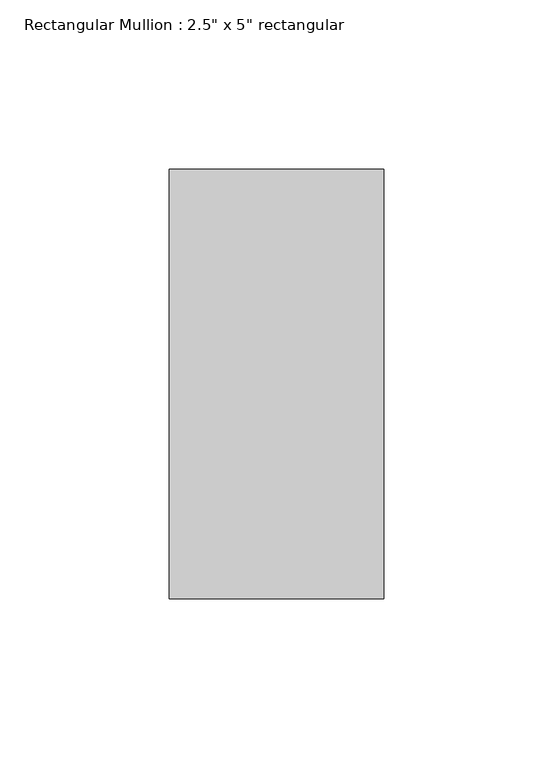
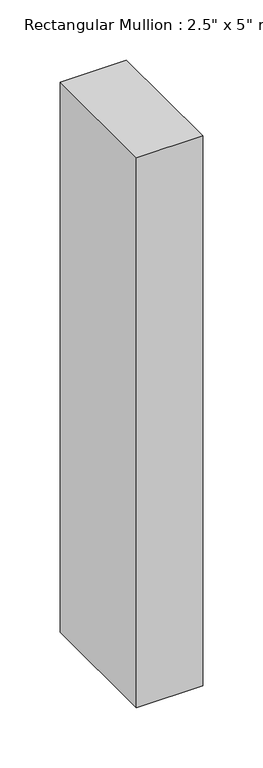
"""IFC4 building model written with IfcOpenShell, lengths in millimetres: member geometry."""

from ifc_helpers import new_model, si_unit, frame, origin, place, context, project, spatial, polyline, outline, extrude, source, transform, mapped, element, save


def member_4dd012e6(model_context):
    return source(origin(), model_context, "Body", "SweptSolid", [
        extrude(outline(polyline([(31.75, 63.5), (31.75, -63.5), (-31.75, -63.5), (-31.75, 63.5), (31.75, 63.5)])), frame((0.0, 0.0, -558.2730236), z_axis=(0.0, 0.0, 1.0), x_axis=(1.0, 0.0, 0.0)), (0.0, 0.0, 1.0), 558.2730236),
    ])


if __name__ == "__main__":
    model = new_model("IFC4")
    model_context = context("Model", 3, world=origin())
    ifc_project = project(units=[si_unit("LENGTHUNIT", "METRE", prefix="MILLI")], contexts=[model_context])
    site = spatial("IfcSite", under=ifc_project)
    building = spatial("IfcBuilding", under=site)
    placement = place(None, origin())
    member_shape = member_4dd012e6(model_context)
    element("IfcMember", 1, ObjectType="Rectangular Mullion : 2.5\" x 5\" rectangular", at=placement, inside=building, context=model_context, shape_type="MappedRepresentation", body=[
        mapped(member_shape, transform((0.0, 0.0, 0.0), x_axis=(1.0, 0.0, 0.0), y_axis=(0.0, 1.0, 0.0), z_axis=(0.0, 0.0, 1.0))),
    ])
    save(model, "model.ifc")
